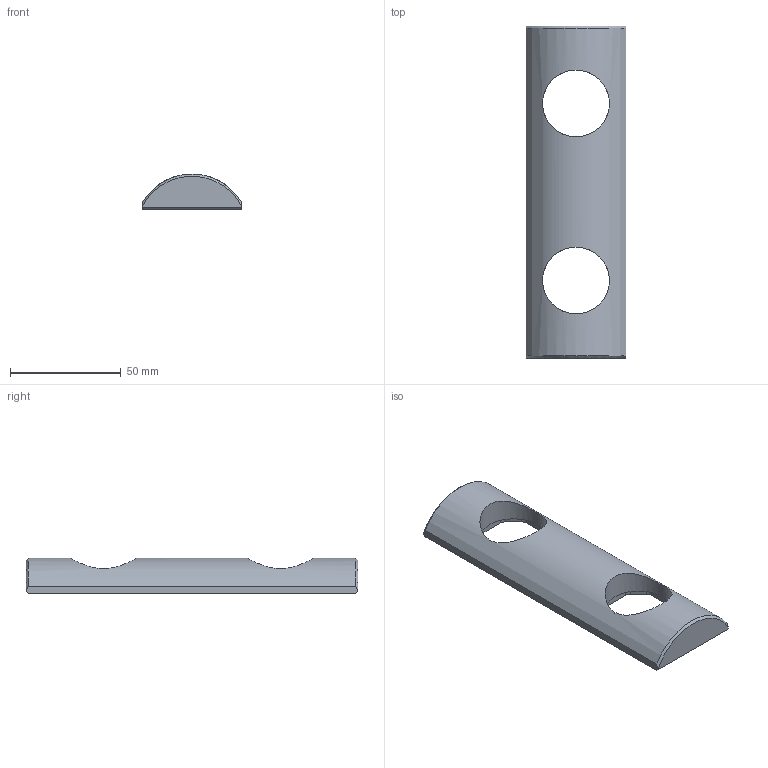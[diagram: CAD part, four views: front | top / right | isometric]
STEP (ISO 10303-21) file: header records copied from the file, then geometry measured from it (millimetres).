
FILE_DESCRIPTION(/* description */ ('VariCAD 2010-1.04 AP-203'),/* implementation_level */ '2;1');
FILE_NAME(/* name */ '0353-19-40',/* time_stamp */ '2010-01-26T15:06:04-07:00',/* author */ (''),/* organization */ (''),/* preprocessor_version */ 'ST-DEVELOPER v12',/* originating_system */ 'VariCAD 2010-1.04; kernel version (20090520)',/* authorisation */ '');
FILE_SCHEMA (('CONFIG_CONTROL_DESIGN'));
Length unit declared in the file: millimetre
Products named in the file (1): Part
Bounding box: 45 x 150 x 16.25 mm (x, y, z)
Volume: 58717.9 mm3; surface area: 16906 mm2
Topology: 1 solids, 1 shells, 48 faces, 132 edges, 88 vertices
Faces by surface type: plane 25, cylinder 21, cone 2
Entity records: 1698 total; most frequent: CARTESIAN_POINT 394, ORIENTED_EDGE 264, DIRECTION 264, EDGE_CURVE 132, AXIS2_PLACEMENT_3D 90, VERTEX_POINT 88, LINE 84, VECTOR 84
